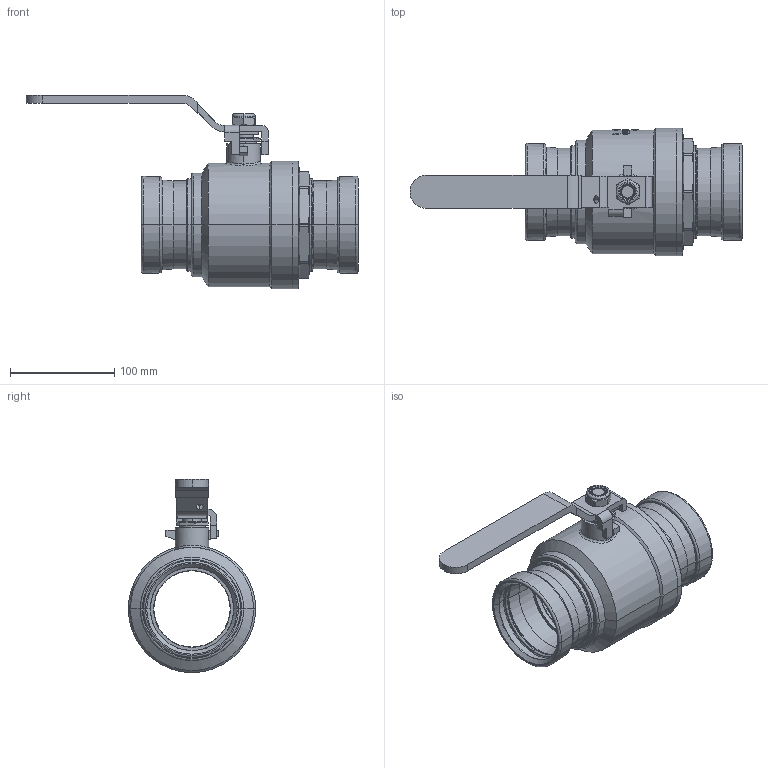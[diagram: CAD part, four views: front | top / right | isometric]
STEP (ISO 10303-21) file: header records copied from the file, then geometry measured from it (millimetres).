
FILE_DESCRIPTION(('Open CASCADE Model'),'2;1');
FILE_NAME('Open CASCADE Shape Model','2021-12-14T09:50:06',('Author'),( 'Open CASCADE'),'Open CASCADE STEP processor 7.3','Open CASCADE 7.3' ,'Unknown');
FILE_SCHEMA(('AUTOMOTIVE_DESIGN { 1 0 10303 214 1 1 1 1 }'));
Length unit declared in the file: millimetre
Products named in the file (15): Open CASCADE STEP translator 7.3 1; Open CASCADE STEP translator 7.3 1.1; Open CASCADE STEP translator 7.3 1.2; Open CASCADE STEP translator 7.3 1.3; Open CASCADE STEP translator 7.3 1.4; Open CASCADE STEP translator 7.3 1.5; Open CASCADE STEP translator 7.3 1.6; Open CASCADE STEP translator 7.3 1.7; Open CASCADE STEP translator 7.3 1.8; Open CASCADE STEP translator 7.3 1.9; Open CASCADE STEP translator 7.3 1.10; Open CASCADE STEP translator 7.3 1.11; Open CASCADE STEP translator 7.3 1.12; Open CASCADE STEP translator 7.3 1.13; Open CASCADE STEP translator 7.3 1.14
Assembly tree (14 placements, depth 2):
  Open CASCADE STEP translator 7.3 1
    Open CASCADE STEP translator 7.3 1.1
    Open CASCADE STEP translator 7.3 1.2
    Open CASCADE STEP translator 7.3 1.3
    Open CASCADE STEP translator 7.3 1.4
    Open CASCADE STEP translator 7.3 1.5
    Open CASCADE STEP translator 7.3 1.6
    Open CASCADE STEP translator 7.3 1.7
    Open CASCADE STEP translator 7.3 1.8
    Open CASCADE STEP translator 7.3 1.9
    Open CASCADE STEP translator 7.3 1.10
    Open CASCADE STEP translator 7.3 1.11
    Open CASCADE STEP translator 7.3 1.12
    Open CASCADE STEP translator 7.3 1.13
    Open CASCADE STEP translator 7.3 1.14
Bounding box: 317.8 x 122 x 185.05 mm (x, y, z)
Volume: 624607.2 mm3; surface area: 316355.7 mm2
Topology: 14 solids, 15 shells, 696 faces, 1763 edges, 1123 vertices
Faces by surface type: cylinder 227, plane 195, cone 105, bspline 103, torus 58, sphere 8
Entity records: 109339 total; most frequent: CARTESIAN_POINT 77010, DIRECTION 5175, ORIENTED_EDGE 3518, PCURVE 3518, DEFINITIONAL_REPRESENTATION 3518, LINE 2577, VECTOR 2577, EDGE_CURVE 1759
